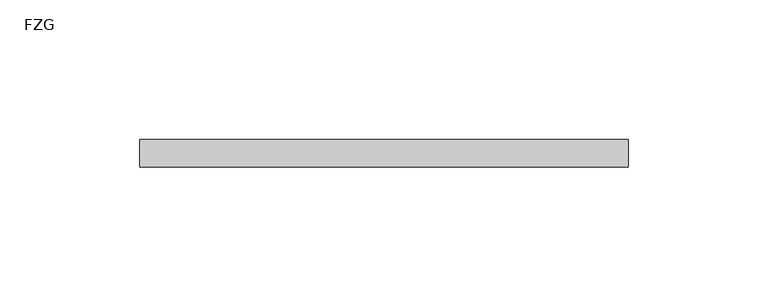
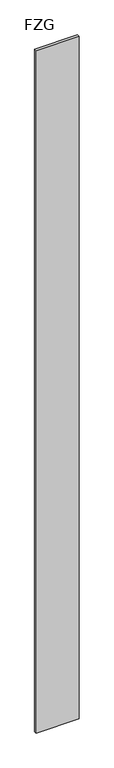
"""IFC4 building model written with IfcOpenShell, lengths in millimetres: plate geometry, Panel-Glass-Teknion-OptosLP : FZG."""

from ifc_helpers import new_model, si_unit, origin, origin_with_axes, place, context, project, spatial, polyline, outline, extrude, source, transform, mapped, element, save


def fzg_7c3ae848(model_context):
    return source(origin(), model_context, "Body", "SweptSolid", [
        extrude(outline(polyline([(87.6154035, 5.0038), (87.6154035, -5.0038), (-87.6154035, -5.0038), (-87.6154035, 5.0038), (87.6154035, 5.0038)])), origin_with_axes(), (0.0, 0.0, 1.0), 2948.2093585),
    ])


if __name__ == "__main__":
    model = new_model("IFC4")
    model_context = context("Model", 3, world=origin())
    ifc_project = project(units=[si_unit("LENGTHUNIT", "METRE", prefix="MILLI")], contexts=[model_context])
    site = spatial("IfcSite", under=ifc_project)
    building = spatial("IfcBuilding", under=site)
    placement = place(None, origin())
    fzg_shape = fzg_7c3ae848(model_context)
    element("IfcPlate", 1, ObjectType="Panel-Glass-Teknion-OptosLP : FZG", at=placement, inside=building, context=model_context, shape_type="MappedRepresentation", body=[
        mapped(fzg_shape, transform((0.0, 0.0, 0.0), x_axis=(1.0, 0.0, 0.0), y_axis=(0.0, 1.0, 0.0), z_axis=(0.0, 0.0, 1.0))),
    ])
    save(model, "model.ifc")
